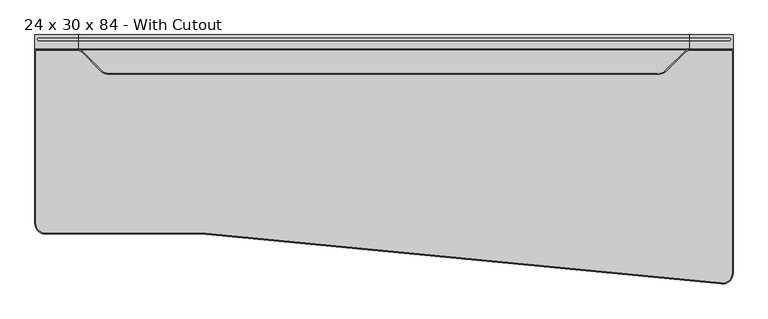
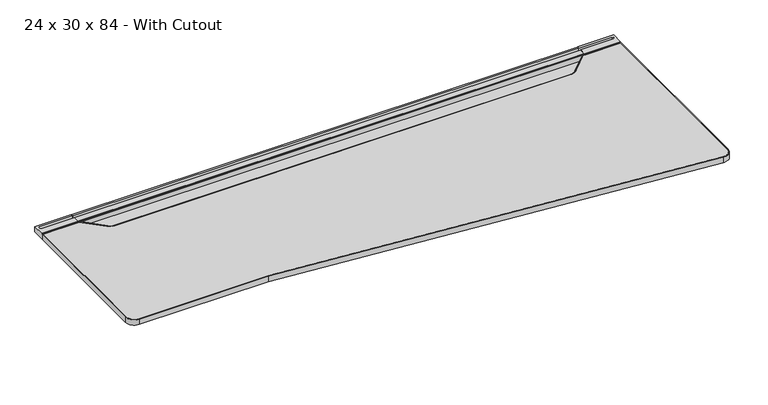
"""IFC4 building model written with IfcOpenShell, lengths in millimetres: furniture geometry, Steelcase - C Scape - Desking - Right Hand Transition - Non Sliding : 24 x 30 x 84 - With Cutout."""

from ifc_helpers import new_model, si_unit, point, frame, frame_2d, origin, place, context, project, spatial, polyline, circle_curve, trimmed, segment, composite_curve, outline, extrude, faceted_brep, source, transform, mapped, element, save
from ifc_brep_helpers import plane_surface, cylinder_surface, revolved_surface, advanced_brep


def furniture_24_x_30_x_84_with_cutout_db138713(model_context):
    return source(origin(), model_context, "Body", "SolidModel", [
        advanced_brep(
        [(2000.5802124, -45.3135132, 703.3768), (2000.5802124, -45.3135132, 722.4268341), (2000.5802124, -42.7750923, 722.4268341), (2000.5802124, -42.7750923, 725.932), (2000.5802124, -19.3290527, 725.932), (2000.5802124, -19.3290527, 713.486), (2000.5802124, -8.5111084, 713.486), (2000.5802124, -8.5111084, 725.932), (2000.5802124, 0.0, 725.932), (2000.5802124, 0.0, 705.1038636), (2000.5802124, -3.2278472, 705.1038636), (2000.5802124, -4.0331902, 703.3768), (2133.6, -45.3135132, 703.3768), (2133.6, -4.0331902, 703.3768), (2133.6, -3.2278472, 705.1038636), (2133.6, 0.0, 705.1038636), (2133.6, 0.0, 725.932), (2133.6, -42.7750923, 725.932), (2133.6, -42.7750923, 722.4268341), (2133.6, -45.3135132, 722.4268341), (2121.8379272, -8.5111084, 725.932), (2121.8379272, -19.3290527, 725.932), (2121.8379272, -19.3290527, 713.486), (2121.8379272, -8.5111084, 713.486)],
        [
            (0, 1),
            (1, 2),
            (2, 3),
            (3, 4),
            (4, 5),
            (5, 6),
            (6, 7),
            (7, 8),
            (8, 9),
            (9, 10),
            (10, 11),
            (11, 0),
            (12, 13),
            (13, 14),
            (14, 15),
            (15, 16),
            (16, 17),
            (17, 18),
            (18, 19),
            (19, 12),
            (11, 13),
            (12, 0),
            (10, 14),
            (9, 15),
            (8, 16),
            (7, 20),
            (20, 21, circle_curve(frame((2121.8379272, -13.9200806, 725.932), z_axis=(0.0, 0.0, -1.0), x_axis=(-1.0, 0.0, 0.0)), 5.4089722)),
            (21, 4),
            (3, 17),
            (2, 18),
            (1, 19),
            (5, 22),
            (22, 23, circle_curve(frame((2121.8379272, -13.9200806, 713.486), z_axis=(0.0, 0.0, 1.0), x_axis=(-1.0, 0.0, 0.0)), 5.4089722)),
            (23, 6),
            (23, 20),
            (22, 21),
        ],
        [
            plane_surface(frame((2000.5802124, -45.3135132, 703.3768), z_axis=(-1.0, 0.0, 0.0), x_axis=(0.0, 1.0, 0.0))),
            plane_surface(frame((2133.6, -45.3135132, 703.3768), z_axis=(1.0, 0.0, 0.0), x_axis=(0.0, -1.0, 0.0))),
            plane_surface(frame((2000.5802124, -45.3135132, 703.3768), z_axis=(0.0, 0.0, -1.0), x_axis=(1.0, 0.0, 0.0))),
            plane_surface(frame((2000.5802124, -4.0331902, 703.3768), z_axis=(0.0, 0.9063077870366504, -0.4226182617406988), x_axis=(1.0, 0.0, 0.0))),
            plane_surface(frame((2000.5802124, -3.2278472, 705.1038636), z_axis=(0.0, 0.0, -1.0), x_axis=(1.0, 0.0, 0.0))),
            plane_surface(frame((2000.5802124, 0.0, 705.1038636), z_axis=(0.0, 1.0, 0.0), x_axis=(1.0, 0.0, 0.0))),
            plane_surface(frame((2000.5802124, 0.0, 725.932), z_axis=(0.0, 0.0, 1.0), x_axis=(1.0, 0.0, 0.0))),
            plane_surface(frame((2000.5802124, -42.7750923, 725.932), z_axis=(0.0, -1.0, 0.0), x_axis=(1.0, 0.0, 0.0))),
            plane_surface(frame((2000.5802124, -42.7750923, 722.4268341), z_axis=(0.0, 0.0, 1.0), x_axis=(1.0, 0.0, 0.0))),
            plane_surface(frame((2000.5802124, -45.3135132, 722.4268341), z_axis=(0.0, -1.0, 0.0), x_axis=(1.0, 0.0, 0.0))),
            plane_surface(frame((2121.8379272, -8.5111084, 713.486), z_axis=(0.0, 0.0, 1.0), x_axis=(-1.0, 0.0, 0.0))),
            plane_surface(frame((2000.5802124, -8.5111084, 731.2180541), z_axis=(0.0, -1.0, 0.0), x_axis=(0.0, 0.0, -1.0))),
            revolved_surface(polyline([(2116.4289550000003, -13.9200806, 725.932), (2116.4289550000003, -13.9200806, 713.486)]), (2121.8379272, -13.9200806, 713.486), (0.0, 0.0, 1.0)),
            plane_surface(frame((2121.8379272, -19.3290527, 731.2180541), z_axis=(0.0, 1.0, 0.0), x_axis=(0.0, 0.0, -1.0))),
        ],
        [
            (0, [[1, 2, 3, 4, 5, 6, 7, 8, 9, 10, 11, 12]]),
            (1, [[13, 14, 15, 16, 17, 18, 19, 20]]),
            (2, [[21, -13, 22, -12]]),
            (3, [[23, -14, -21, -11]]),
            (4, [[24, -15, -23, -10]]),
            (5, [[25, -16, -24, -9]]),
            (6, [[-25, -8, 26, 27, 28, -4, 29, -17]]),
            (7, [[30, -18, -29, -3]]),
            (8, [[31, -19, -30, -2]]),
            (9, [[-22, -20, -31, -1]]),
            (10, [[-6, 32, 33, 34]]),
            (11, [[35, -26, -7, -34]]),
            (12, [[36, -27, -35, -33]]),
            (13, [[-5, -28, -36, -32]]),
        ],
    ),
        faceted_brep([(2114.5492368, -565.0752923, 700.7093833), (2114.5492368, -565.0752923, 703.3768), (2000.5802124, -565.0752923, 703.3768), (2000.5802124, -565.0752923, 679.3263935), (2016.2143699, -565.0752923, 679.3263935), (2018.8349121, -565.0752923, 693.4200291), (2100.2741272, -565.0752923, 693.4200291), (2114.5492368, -4.0331902, 700.7093833), (2100.2741272, -4.0331902, 693.4200291), (2018.8349121, -4.0331902, 693.4200291), (2006.9286653, -4.0331902, 629.3866), (2000.5802124, -4.0331902, 629.3866), (2000.5802124, -4.0331902, 703.3768), (2114.5492368, -4.0331902, 703.3768), (2014.0490949, -376.5599397, 667.6812472), (2006.9286653, -364.1172546, 629.3866), (2000.5802124, -364.1172546, 629.3866), (2000.5802124, -376.5599397, 667.6812472)], [[[0, 1, 2, 3, 4, 5, 6]], [[7, 8, 9, 10, 11, 12, 13]], [[6, 8, 7, 0]], [[5, 9, 8, 6]], [[9, 5, 4, 14, 15, 10]], [[10, 15, 16, 11]], [[11, 16, 17, 3, 2, 12]], [[1, 13, 12, 2]], [[0, 7, 13, 1]], [[14, 4, 3, 17]], [[17, 16, 15, 14]]]),
        extrude(outline(composite_curve([segment(polyline([(-293.5216187, 657.3775839), (-559.0022133, 680.1371551)]), True, "CONTINUOUS"), segment(trimmed(circle_curve(frame_2d((-558.7581271, 682.9843154)), 2.8576039), [point((-559.0022133, 680.1371551))], [point((-561.5383043, 682.3236226))], False, "CARTESIAN"), True, "CONTINUOUS"), segment(polyline([(-561.5383043, 682.3236226), (-566.0887542, 701.4717905), (-557.8334441, 701.4717905), (-557.8334441, 703.3768), (-442.6683806, 703.3768), (-442.6683806, 696.3917953), (-318.2108611, 696.3917953), (-318.2108611, 703.3768), (-293.5216187, 703.3768), (-293.5216187, 657.3775839)]), True, "CONTINUOUS")], self_intersect=False)), frame((1030.224, 0.0, 0.0), z_axis=(1.0, 0.0, 0.0), x_axis=(0.0, 1.0, 0.0)), (0.0, 0.0, 1.0), 73.152),
        advanced_brep(
        [(133.0197876, -45.3135132, 703.3768), (133.0197876, -4.0331902, 703.3768), (133.0197876, -3.2278472, 705.1038636), (133.0197876, 0.0, 705.1038636), (133.0197876, 0.0, 725.932), (133.0197876, -8.5111084, 725.932), (133.0197876, -8.5111084, 713.486), (133.0197876, -19.3290527, 713.486), (133.0197876, -19.3290527, 725.932), (133.0197876, -42.7750923, 725.932), (133.0197876, -42.7750923, 722.4268341), (133.0197876, -45.3135132, 722.4268341), (0.0, -45.3135132, 703.3768), (0.0, -45.3135132, 722.4268341), (0.0, -42.7750923, 722.4268341), (0.0, -42.7750923, 725.932), (0.0, 0.0, 725.932), (0.0, 0.0, 705.1038636), (0.0, -3.2278472, 705.1038636), (0.0, -4.0331902, 703.3768), (11.7620728, -19.3290527, 725.932), (11.7620728, -8.5111084, 725.932), (11.7620728, -8.5111084, 713.486), (11.7620728, -19.3290527, 713.486)],
        [
            (0, 1),
            (1, 2),
            (2, 3),
            (3, 4),
            (4, 5),
            (5, 6),
            (6, 7),
            (7, 8),
            (8, 9),
            (9, 10),
            (10, 11),
            (11, 0),
            (12, 13),
            (13, 14),
            (14, 15),
            (15, 16),
            (16, 17),
            (17, 18),
            (18, 19),
            (19, 12),
            (0, 12),
            (19, 1),
            (18, 2),
            (17, 3),
            (16, 4),
            (15, 9),
            (8, 20),
            (20, 21, circle_curve(frame((11.7620728, -13.9200806, 725.932), z_axis=(0.0, 0.0, -1.0), x_axis=(1.0, 0.0, 0.0)), 5.4089722)),
            (21, 5),
            (14, 10),
            (13, 11),
            (6, 22),
            (22, 23, circle_curve(frame((11.7620728, -13.9200806, 713.486), z_axis=(0.0, 0.0, 1.0), x_axis=(1.0, 0.0, 0.0)), 5.4089722)),
            (23, 7),
            (21, 22),
            (20, 23),
        ],
        [
            plane_surface(frame((133.0197876, -45.3135132, 703.3768), z_axis=(1.0, 0.0, 0.0), x_axis=(0.0, 1.0, 0.0))),
            plane_surface(frame((0.0, -45.3135132, 703.3768), z_axis=(-1.0, 0.0, 0.0), x_axis=(0.0, -1.0, 0.0))),
            plane_surface(frame((133.0197876, -45.3135132, 703.3768), z_axis=(0.0, 0.0, -1.0), x_axis=(-1.0, 0.0, 0.0))),
            plane_surface(frame((133.0197876, -4.0331902, 703.3768), z_axis=(0.0, 0.9063077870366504, -0.4226182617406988), x_axis=(-1.0, 0.0, 0.0))),
            plane_surface(frame((133.0197876, -3.2278472, 705.1038636), z_axis=(0.0, 0.0, -1.0), x_axis=(-1.0, 0.0, 0.0))),
            plane_surface(frame((133.0197876, 0.0, 705.1038636), z_axis=(0.0, 1.0, 0.0), x_axis=(-1.0, 0.0, 0.0))),
            plane_surface(frame((133.0197876, 0.0, 725.932), z_axis=(0.0, 0.0, 1.0), x_axis=(-1.0, 0.0, 0.0))),
            plane_surface(frame((133.0197876, -42.7750923, 725.932), z_axis=(0.0, -1.0, 0.0), x_axis=(-1.0, 0.0, 0.0))),
            plane_surface(frame((133.0197876, -42.7750923, 722.4268341), z_axis=(0.0, 0.0, 1.0), x_axis=(-1.0, 0.0, 0.0))),
            plane_surface(frame((133.0197876, -45.3135132, 722.4268341), z_axis=(0.0, -1.0, 0.0), x_axis=(-1.0, 0.0, 0.0))),
            plane_surface(frame((11.7620728, -8.5111084, 713.486), z_axis=(0.0, 0.0, 1.0), x_axis=(1.0, 0.0, 0.0))),
            plane_surface(frame((133.0197876, -8.5111084, 731.2180541), z_axis=(0.0, -1.0, 0.0), x_axis=(0.0, 0.0, -1.0))),
            revolved_surface(polyline([(17.171045, -13.9200806, 725.932), (17.171045, -13.9200806, 713.486)]), (11.7620728, -13.9200806, 713.486), (0.0, 0.0, 1.0)),
            plane_surface(frame((11.7620728, -19.3290527, 731.2180541), z_axis=(0.0, 1.0, 0.0), x_axis=(0.0, 0.0, -1.0))),
        ],
        [
            (0, [[1, 2, 3, 4, 5, 6, 7, 8, 9, 10, 11, 12]]),
            (1, [[13, 14, 15, 16, 17, 18, 19, 20]]),
            (2, [[-1, 21, -20, 22]]),
            (3, [[-2, -22, -19, 23]]),
            (4, [[-3, -23, -18, 24]]),
            (5, [[-4, -24, -17, 25]]),
            (6, [[-16, 26, -9, 27, 28, 29, -5, -25]]),
            (7, [[-10, -26, -15, 30]]),
            (8, [[-11, -30, -14, 31]]),
            (9, [[-12, -31, -13, -21]]),
            (10, [[32, 33, 34, -7]]),
            (11, [[-32, -6, -29, 35]]),
            (12, [[-33, -35, -28, 36]]),
            (13, [[-34, -36, -27, -8]]),
        ],
    ),
        faceted_brep([(19.0507632, -565.0752923, 700.7093833), (33.3258728, -565.0752923, 693.4200291), (114.7650879, -565.0752923, 693.4200291), (117.3856301, -565.0752923, 679.3263935), (133.0197876, -565.0752923, 679.3263935), (133.0197876, -565.0752923, 703.3768), (19.0507632, -565.0752923, 703.3768), (19.0507632, -4.0331902, 700.7093833), (19.0507632, -4.0331902, 703.3768), (133.0197876, -4.0331902, 703.3768), (133.0197876, -4.0331902, 629.3866), (126.6713347, -4.0331902, 629.3866), (114.7650879, -4.0331902, 693.4200291), (33.3258728, -4.0331902, 693.4200291), (126.6713347, -364.1172546, 629.3866), (119.5509051, -376.5599397, 667.6812472), (133.0197876, -364.1172546, 629.3866), (133.0197876, -376.5599397, 667.6812472)], [[[0, 1, 2, 3, 4, 5, 6]], [[7, 8, 9, 10, 11, 12, 13]], [[1, 0, 7, 13]], [[2, 1, 13, 12]], [[12, 11, 14, 15, 3, 2]], [[11, 10, 16, 14]], [[10, 9, 5, 4, 17, 16]], [[6, 5, 9, 8]], [[0, 6, 8, 7]], [[15, 17, 4, 3]], [[17, 15, 14, 16]]]),
        extrude(outline(polyline([(-8.5111084, 725.932), (0.0, 725.932), (0.0, 705.1038636), (-3.2278472, 705.1038636), (-4.0331902, 703.3768), (-45.3135132, 703.3768), (-45.3135132, 722.4268341), (-42.7750923, 722.4268341), (-42.7750923, 725.932), (-19.3290527, 725.932), (-19.3290527, 713.486), (-8.5111084, 713.486), (-8.5111084, 725.932)])), frame((133.6675, 0.0, 0.0), z_axis=(1.0, 0.0, 0.0), x_axis=(0.0, 1.0, 0.0)), (0.0, 0.0, 1.0), 1865.3252124),
        extrude(outline(polyline([(133.6675, -293.5216187), (133.6675, -4.0331902), (1998.9927124, -4.0331902), (1998.9927124, -293.5216187), (133.6675, -293.5216187)])), frame((0.0, 0.0, 629.3866), z_axis=(0.0, 0.0, 1.0), x_axis=(1.0, 0.0, 0.0)), (0.0, 0.0, 1.0), 73.9902),
        extrude(outline(composite_curve([segment(polyline([(508.0002405, -606.5490234), (31.8007993, -606.5490234)]), True, "CONTINUOUS"), segment(trimmed(circle_curve(frame_2d((31.8007993, -577.7962241)), 28.7527993), [point((31.8007993, -606.5490234))], [point((3.048, -577.7962241))], False, "CARTESIAN"), True, "CONTINUOUS"), segment(polyline([(3.048, -577.7962241), (3.048, -48.3660689), (131.6700001, -48.3660689)]), True, "CONTINUOUS"), segment(trimmed(circle_curve(frame_2d((131.6700001, -63.6060689)), 15.24), [point((131.6700001, -48.3660689))], [point((142.4463079, -52.8297619))], False, "CARTESIAN"), True, "CONTINUOUS"), segment(polyline([(142.4463079, -52.8297619), (199.9201078, -110.303566)]), True, "CONTINUOUS"), segment(trimmed(circle_curve(frame_2d((226.8608771, -83.3627986)), 38.1), [point((199.9201078, -110.303566))], [point((226.8608771, -121.4627986))], True, "CARTESIAN"), True, "CONTINUOUS"), segment(polyline([(226.8608771, -121.4627986), (1904.2835261, -121.4627986)]), True, "CONTINUOUS"), segment(trimmed(circle_curve(frame_2d((1904.2835261, -83.3627986)), 38.1), [point((1904.2835261, -121.4627986))], [point((1931.2242945, -110.303567))], True, "CARTESIAN"), True, "CONTINUOUS"), segment(polyline([(1931.2242945, -110.303567), (1988.7588568, -52.7690046)]), True, "CONTINUOUS"), segment(trimmed(circle_curve(frame_2d((1999.388484, -63.3986318)), 15.0325629), [point((1988.7588568, -52.7690046))], [point((1999.388484, -48.3660689))], False, "CARTESIAN"), True, "CONTINUOUS"), segment(polyline([(1999.388484, -48.3660689), (2130.552, -48.3660689), (2130.552, -730.055403)]), True, "CONTINUOUS"), segment(trimmed(circle_curve(frame_2d((2101.0234075, -730.055403)), 29.5285925), [point((2130.552, -730.055403))], [point((2097.9008291, -759.4184287))], False, "CARTESIAN"), True, "CONTINUOUS"), segment(polyline([(2097.9008291, -759.4184287), (508.0002405, -606.5490234)]), True, "CONTINUOUS")], self_intersect=False)), frame((0.0, 0.0, 703.3768), z_axis=(0.0, 0.0, 1.0), x_axis=(1.0, 0.0, 0.0)), (0.0, 0.0, 1.0), 20.5232),
        advanced_brep(
        [(1902.4564053, -118.4118221, 723.9), (1902.4564053, -121.4627986, 723.9), (1902.4564053, -121.4627986, 703.3768), (1902.4564053, -118.4118221, 703.3768), (223.9255059, -121.4627986, 723.9), (223.9255059, -121.4627986, 703.3768), (223.9255059, -118.4118221, 703.3768), (223.9255059, -118.4118221, 723.9), (201.9957286, -112.379187, 703.3768), (201.9957286, -112.379187, 723.9), (204.1530949, -110.2218209, 723.9), (204.1530949, -110.2218209, 703.3768), (142.3719136, -52.7553676, 723.9), (142.3719136, -52.7553676, 703.3768), (144.5292799, -50.5980015, 703.3768), (144.5292799, -50.5980015, 723.9), (133.2679227, -48.3660689, 703.3768), (133.2679227, -48.3660689, 723.9), (133.4327798, -45.3150923, 723.9), (133.4327798, -45.3150923, 703.3768), (3.048, -48.3660689, 723.9), (3.048, -48.3660689, 703.3768), (-0.0029766, -45.3150923, 703.3768), (-0.0029766, -45.3150923, 723.9), (3.048, -577.7962241, 723.9), (3.048, -577.7962241, 703.3768), (-0.0029766, -577.7962241, 703.3768), (-0.0029766, -577.7962241, 723.9), (31.8007993, -606.5490234, 703.3768), (31.8007993, -606.5490234, 723.9), (31.8007993, -609.6, 723.9), (31.8007993, -609.6, 703.3768), (508.0002405, -606.5490234, 723.9), (508.0002405, -606.5490234, 703.3768), (507.8539018, -609.6, 703.3768), (507.8539018, -609.6, 723.9), (2097.9008291, -759.4184287, 723.9), (2097.9008291, -759.4184287, 703.3768), (2097.6088235, -762.4553993, 703.3768), (2097.6088235, -762.4553993, 723.9), (2130.552, -730.055403, 723.9), (2133.6029766, -730.055403, 723.9), (2133.6029766, -45.3150923, 723.9), (1998.2053399, -45.3150923, 723.9), (1990.117872, -47.0952981, 723.9), (1926.9912931, -110.2218359, 723.9), (1907.2189084, -118.4118221, 723.9), (1907.2189084, -121.4627986, 723.9), (1929.1486586, -112.3792028, 723.9), (1991.8743869, -49.6535154, 723.9), (1998.2053399, -48.3660689, 723.9), (2130.552, -48.3660689, 723.9), (2130.552, -730.055403, 703.3768), (2133.6029766, -730.055403, 703.3768), (2130.552, -48.3660689, 703.3768), (1998.2053399, -48.3660689, 703.3768), (1991.8743869, -49.6535154, 703.3768), (1929.1486586, -112.3792028, 703.3768), (1907.2189084, -121.4627986, 703.3768), (1907.2189084, -118.4118221, 703.3768), (1926.9912931, -110.2218359, 703.3768), (1990.117872, -47.0952981, 703.3768), (1998.2053399, -45.3150923, 703.3768), (2133.6029766, -45.3150923, 703.3768)],
        [
            (0, 1),
            (1, 2),
            (2, 3),
            (3, 0),
            (1, 4),
            (4, 5),
            (5, 2),
            (3, 6),
            (6, 7),
            (7, 0),
            (8, 5, circle_curve(frame((223.9255059, -90.4494114, 703.3768), z_axis=(0.0, 0.0, 1.0), x_axis=(0.0, -1.0, 0.0)), 31.0133872)),
            (4, 9, circle_curve(frame((223.9255059, -90.4494114, 723.9), z_axis=(0.0, 0.0, -1.0), x_axis=(0.0, -1.0, 0.0)), 31.0133872)),
            (9, 8),
            (10, 7, circle_curve(frame((223.9255059, -90.4494114, 723.9), z_axis=(0.0, 0.0, 1.0), x_axis=(0.0, -1.0, 0.0)), 27.9624107)),
            (6, 11, circle_curve(frame((223.9255059, -90.4494114, 703.3768), z_axis=(0.0, 0.0, -1.0), x_axis=(0.0, -1.0, 0.0)), 27.9624107)),
            (11, 10),
            (9, 12),
            (12, 13),
            (13, 8),
            (11, 14),
            (14, 15),
            (15, 10),
            (16, 13, circle_curve(frame((131.5389064, -63.588374, 703.3768), z_axis=(0.0, 0.0, -1.0), x_axis=(0.7071068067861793, 0.7071067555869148, 0.0)), 15.3201851)),
            (12, 17, circle_curve(frame((131.5389064, -63.588374, 723.9), z_axis=(0.0, 0.0, 1.0), x_axis=(0.7071068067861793, 0.7071067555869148, 0.0)), 15.3201851)),
            (17, 16),
            (18, 15, circle_curve(frame((131.5389064, -63.588374, 723.9), z_axis=(0.0, 0.0, -1.0), x_axis=(0.7071068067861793, 0.7071067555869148, 0.0)), 18.3711616)),
            (14, 19, circle_curve(frame((131.5389064, -63.588374, 703.3768), z_axis=(0.0, 0.0, 1.0), x_axis=(0.7071068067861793, 0.7071067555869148, 0.0)), 18.3711616)),
            (19, 18),
            (17, 20),
            (20, 21),
            (21, 16),
            (19, 22),
            (22, 23),
            (23, 18),
            (20, 24),
            (24, 25),
            (25, 21),
            (22, 26),
            (26, 27),
            (27, 23),
            (28, 25, circle_curve(frame((31.8007993, -577.7962241, 703.3768), z_axis=(0.0, 0.0, -1.0), x_axis=(-1.0, 0.0, 0.0)), 28.7527993)),
            (24, 29, circle_curve(frame((31.8007993, -577.7962241, 723.9), z_axis=(0.0, 0.0, 1.0), x_axis=(-1.0, 0.0, 0.0)), 28.7527993)),
            (29, 28),
            (30, 27, circle_curve(frame((31.8007993, -577.7962241, 723.9), z_axis=(0.0, 0.0, -1.0), x_axis=(-1.0, 0.0, 0.0)), 31.8037759)),
            (26, 31, circle_curve(frame((31.8007993, -577.7962241, 703.3768), z_axis=(0.0, 0.0, 1.0), x_axis=(-1.0, 0.0, 0.0)), 31.8037759)),
            (31, 30),
            (29, 32),
            (32, 33),
            (33, 28),
            (31, 34),
            (34, 35),
            (35, 30),
            (32, 36),
            (36, 37),
            (37, 33),
            (34, 38),
            (38, 39),
            (39, 35),
            (40, 36, circle_curve(frame((2101.0234075, -730.055403, 723.9), z_axis=(0.0, 0.0, -1.0), x_axis=(-0.10574762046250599, -0.9943930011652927, 0.0)), 29.5285925)),
            (39, 41, circle_curve(frame((2101.0234075, -730.055403, 723.9), z_axis=(0.0, 0.0, 1.0), x_axis=(-0.10574762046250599, -0.9943930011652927, 0.0)), 32.5795691)),
            (41, 42),
            (42, 43),
            (43, 44, circle_curve(frame((1998.2053399, -64.5758622, 723.9), z_axis=(0.0, 0.0, 1.0), x_axis=(0.0, 1.0, 0.0)), 19.2607699)),
            (44, 45),
            (45, 46, circle_curve(frame((1907.2189084, -90.4494383, 723.9), z_axis=(0.0, 0.0, -1.0), x_axis=(0.7071065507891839, -0.707107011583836, 0.0)), 27.9623838)),
            (46, 47),
            (47, 48, circle_curve(frame((1907.2189084, -90.4494383, 723.9), z_axis=(0.0, 0.0, 1.0), x_axis=(0.7071065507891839, -0.707107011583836, 0.0)), 31.0133604)),
            (48, 49),
            (49, 50, circle_curve(frame((1998.2053399, -64.5758622, 723.9), z_axis=(0.0, 0.0, -1.0), x_axis=(0.0, 1.0, 0.0)), 16.2097933)),
            (50, 51),
            (51, 40),
            (52, 37, circle_curve(frame((2101.0234075, -730.055403, 703.3768), z_axis=(0.0, 0.0, -1.0), x_axis=(-0.10574762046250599, -0.9943930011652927, 0.0)), 29.5285925)),
            (40, 52),
            (53, 38, circle_curve(frame((2101.0234075, -730.055403, 703.3768), z_axis=(0.0, 0.0, -1.0), x_axis=(-0.10574762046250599, -0.9943930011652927, 0.0)), 32.5795691)),
            (52, 54),
            (54, 55),
            (55, 56, circle_curve(frame((1998.2053399, -64.5758622, 703.3768), z_axis=(0.0, 0.0, 1.0), x_axis=(0.0, 1.0, 0.0)), 16.2097933)),
            (56, 57),
            (57, 58, circle_curve(frame((1907.2189084, -90.4494383, 703.3768), z_axis=(0.0, 0.0, -1.0), x_axis=(0.7071065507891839, -0.707107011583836, 0.0)), 31.0133604)),
            (58, 59),
            (59, 60, circle_curve(frame((1907.2189084, -90.4494383, 703.3768), z_axis=(0.0, 0.0, 1.0), x_axis=(0.7071065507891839, -0.707107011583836, 0.0)), 27.9623838)),
            (60, 61),
            (61, 62, circle_curve(frame((1998.2053399, -64.5758622, 703.3768), z_axis=(0.0, 0.0, -1.0), x_axis=(0.0, 1.0, 0.0)), 19.2607699)),
            (62, 63),
            (63, 53),
            (53, 41),
            (51, 54),
            (63, 42),
            (50, 55),
            (62, 43),
            (49, 56),
            (61, 44),
            (48, 57),
            (60, 45),
            (46, 59),
            (58, 47),
        ],
        [
            plane_surface(frame((1902.4564053, -121.4627986, 0.0), z_axis=(1.0, 0.0, 0.0), x_axis=(0.0, 0.0, 1.0))),
            plane_surface(frame((1902.4564053, -121.4627986, 723.9), z_axis=(0.0, -1.0, 0.0), x_axis=(-1.0, 0.0, 0.0))),
            plane_surface(frame((1902.4564053, -118.4118221, 703.3768), z_axis=(0.0, 1.0, 0.0), x_axis=(-1.0, 0.0, 0.0))),
            cylinder_surface(frame((223.9255059, -90.4494114, 0.0), z_axis=(0.0, 0.0, -1.0), x_axis=(0.0, -1.0, 0.0)), 31.0133872),
            revolved_surface(polyline([(223.9255059, -118.4118221, 703.3768), (223.9255059, -118.4118221, 723.9)]), (223.9255059, -90.4494114, 0.0), (0.0, 0.0, -1.0)),
            plane_surface(frame((201.9957286, -112.379187, 723.9), z_axis=(-0.7071068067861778, -0.7071067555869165, 0.0), x_axis=(-0.7071067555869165, 0.7071068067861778, 0.0))),
            plane_surface(frame((204.1530949, -110.2218209, 703.3768), z_axis=(0.7071068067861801, 0.707106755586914, 0.0), x_axis=(-0.707106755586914, 0.7071068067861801, 0.0))),
            revolved_surface(polyline([(142.3719135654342, -52.75536761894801, 723.9), (142.3719135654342, -52.75536761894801, 703.3768)]), (131.5389064, -63.588374, 0.0), (0.0, 0.0, 1.0)),
            cylinder_surface(frame((131.5389064, -63.588374, 0.0), z_axis=(0.0, 0.0, 1.0), x_axis=(0.7071068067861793, 0.7071067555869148, 0.0)), 18.3711616),
            plane_surface(frame((133.2679227, -48.3660689, 723.9), z_axis=(0.0, -1.0, 0.0), x_axis=(-1.0, 0.0, 0.0))),
            plane_surface(frame((133.4327798, -45.3150923, 703.3768), z_axis=(0.0, 1.0, 0.0), x_axis=(-1.0, 0.0, 0.0))),
            plane_surface(frame((3.048, -48.3660689, 723.9), z_axis=(1.0, 0.0, 0.0), x_axis=(0.0, -1.0, 0.0))),
            plane_surface(frame((-0.0029766, -45.3150923, 703.3768), z_axis=(-1.0, 0.0, 0.0), x_axis=(0.0, -1.0, 0.0))),
            revolved_surface(polyline([(3.048000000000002, -577.7962241, 723.9), (3.048000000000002, -577.7962241, 703.3768)]), (31.8007993, -577.7962241, 0.0), (0.0, 0.0, 1.0)),
            cylinder_surface(frame((31.8007993, -577.7962241, 0.0), z_axis=(0.0, 0.0, 1.0), x_axis=(-1.0, 0.0, 0.0)), 31.8037759),
            plane_surface(frame((31.8007993, -606.5490234, 723.9), z_axis=(0.0, 1.0, 0.0), x_axis=(1.0, 0.0, 0.0))),
            plane_surface(frame((31.8007993, -609.6, 703.3768), z_axis=(0.0, -1.0, 0.0), x_axis=(1.0, 0.0, 0.0))),
            plane_surface(frame((508.0002405, -606.5490234, 723.9), z_axis=(0.09570890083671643, 0.9954093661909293, 0.0), x_axis=(0.9954093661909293, -0.09570890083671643, 0.0))),
            plane_surface(frame((507.8539018, -609.6, 703.3768), z_axis=(-0.09570890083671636, -0.9954093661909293, 0.0), x_axis=(0.9954093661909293, -0.09570890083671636, 0.0))),
            plane_surface(frame((2101.0234075, -730.055403, 723.9), z_axis=(0.0, 0.0, 1.0000000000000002), x_axis=(-0.10574762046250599, -0.9943930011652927, 0.0))),
            revolved_surface(polyline([(2097.900829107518, -759.4184287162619, 723.9), (2097.900829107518, -759.4184287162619, 703.3768)]), (2101.0234075, -730.055403, 0.0), (0.0, 0.0, 1.0)),
            plane_surface(frame((2101.0234075, -730.055403, 703.3768), z_axis=(0.0, 0.0, -1.0000000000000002), x_axis=(-0.10574762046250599, -0.9943930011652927, 0.0))),
            cylinder_surface(frame((2101.0234075, -730.055403, 0.0), z_axis=(0.0, 0.0, 1.0), x_axis=(-0.10574762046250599, -0.9943930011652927, 0.0)), 32.5795691),
            plane_surface(frame((2130.552, -730.055403, 723.9), z_axis=(-1.0, 0.0, 0.0), x_axis=(0.0, 1.0, 0.0))),
            plane_surface(frame((2133.6029766, -730.055403, 703.3768), z_axis=(1.0, 0.0, 0.0), x_axis=(0.0, 1.0, 0.0))),
            plane_surface(frame((2130.552, -48.3660689, 723.9), z_axis=(0.0, -1.0, 0.0), x_axis=(-1.0, 0.0, 0.0))),
            plane_surface(frame((2133.6029766, -45.3150923, 703.3768), z_axis=(0.0, 1.0, 0.0), x_axis=(-1.0, 0.0, 0.0))),
            revolved_surface(polyline([(1998.2053399, -48.3660689, 723.9), (1998.2053399, -48.3660689, 703.3768)]), (1998.2053399, -64.5758622, 0.0), (0.0, 0.0, 1.0)),
            cylinder_surface(frame((1998.2053399, -64.5758622, 0.0), z_axis=(0.0, 0.0, 1.0), x_axis=(0.0, 1.0, 0.0)), 19.2607699),
            plane_surface(frame((1991.8743869, -49.6535154, 723.9), z_axis=(0.7071065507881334, -0.7071070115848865, 0.0), x_axis=(-0.7071070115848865, -0.7071065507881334, 0.0))),
            plane_surface(frame((1990.117872, -47.0952981, 703.3768), z_axis=(-0.7071065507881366, 0.7071070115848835, 0.0), x_axis=(-0.7071070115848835, -0.7071065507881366, 0.0))),
            plane_surface(frame((1907.2189084, -121.4627986, 0.0), z_axis=(-1.0, 0.0, 0.0), x_axis=(0.0, 0.0, 1.0))),
            cylinder_surface(frame((1907.2189084, -90.4494383, 0.0), z_axis=(0.0, 0.0, -1.0), x_axis=(0.7071065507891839, -0.707107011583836, 0.0)), 31.0133604),
            revolved_surface(polyline([(1926.9912931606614, -110.22183594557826, 703.3768), (1926.9912931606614, -110.22183594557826, 723.9)]), (1907.2189084, -90.4494383, 0.0), (0.0, 0.0, -1.0)),
        ],
        [
            (0, [[1, 2, 3, 4]]),
            (1, [[-2, 5, 6, 7]]),
            (2, [[-4, 8, 9, 10]]),
            (3, [[11, -6, 12, 13]]),
            (4, [[14, -9, 15, 16]]),
            (5, [[-13, 17, 18, 19]]),
            (6, [[-16, 20, 21, 22]]),
            (7, [[23, -18, 24, 25]]),
            (8, [[26, -21, 27, 28]]),
            (9, [[-25, 29, 30, 31]]),
            (10, [[-28, 32, 33, 34]]),
            (11, [[-30, 35, 36, 37]]),
            (12, [[-33, 38, 39, 40]]),
            (13, [[41, -36, 42, 43]]),
            (14, [[44, -39, 45, 46]]),
            (15, [[-43, 47, 48, 49]]),
            (16, [[-46, 50, 51, 52]]),
            (17, [[-48, 53, 54, 55]]),
            (18, [[-51, 56, 57, 58]]),
            (19, [[59, -53, -47, -42, -35, -29, -24, -17, -12, -5, -1, -10, -14, -22, -26, -34, -40, -44, -52, -58, 60, 61, 62, 63, 64, 65, 66, 67, 68, 69, 70, 71]]),
            (20, [[72, -54, -59, 73]]),
            (21, [[74, -56, -50, -45, -38, -32, -27, -20, -15, -8, -3, -7, -11, -19, -23, -31, -37, -41, -49, -55, -72, 75, 76, 77, 78, 79, 80, 81, 82, 83, 84, 85]]),
            (22, [[-60, -57, -74, 86]]),
            (23, [[-73, -71, 87, -75]]),
            (24, [[-86, -85, 88, -61]]),
            (25, [[-87, -70, 89, -76]]),
            (26, [[-88, -84, 90, -62]]),
            (27, [[-77, -89, -69, 91]]),
            (28, [[-63, -90, -83, 92]]),
            (29, [[-91, -68, 93, -78]]),
            (30, [[-92, -82, 94, -64]]),
            (31, [[95, -80, 96, -66]]),
            (32, [[-79, -93, -67, -96]]),
            (33, [[-65, -94, -81, -95]]),
        ],
    ),
    ])


if __name__ == "__main__":
    model = new_model("IFC4")
    model_context = context("Model", 3, world=origin())
    ifc_project = project(units=[si_unit("LENGTHUNIT", "METRE", prefix="MILLI")], contexts=[model_context])
    site = spatial("IfcSite", under=ifc_project)
    building = spatial("IfcBuilding", under=site)
    placement = place(None, origin())
    furniture_24_x_30_x_84_with_cutout_shape = furniture_24_x_30_x_84_with_cutout_db138713(model_context)
    element("IfcFurniture", 1, ObjectType="Steelcase - C Scape - Desking - Right Hand Transition - Non Sliding : 24 x 30 x 84 - With Cutout", at=placement, inside=building, context=model_context, shape_type="MappedRepresentation", body=[
        mapped(furniture_24_x_30_x_84_with_cutout_shape, transform((0.0, 0.0, 0.0), x_axis=(1.0, 0.0, 0.0), y_axis=(0.0, 1.0, 0.0), z_axis=(0.0, 0.0, 1.0))),
    ])
    save(model, "model.ifc")
